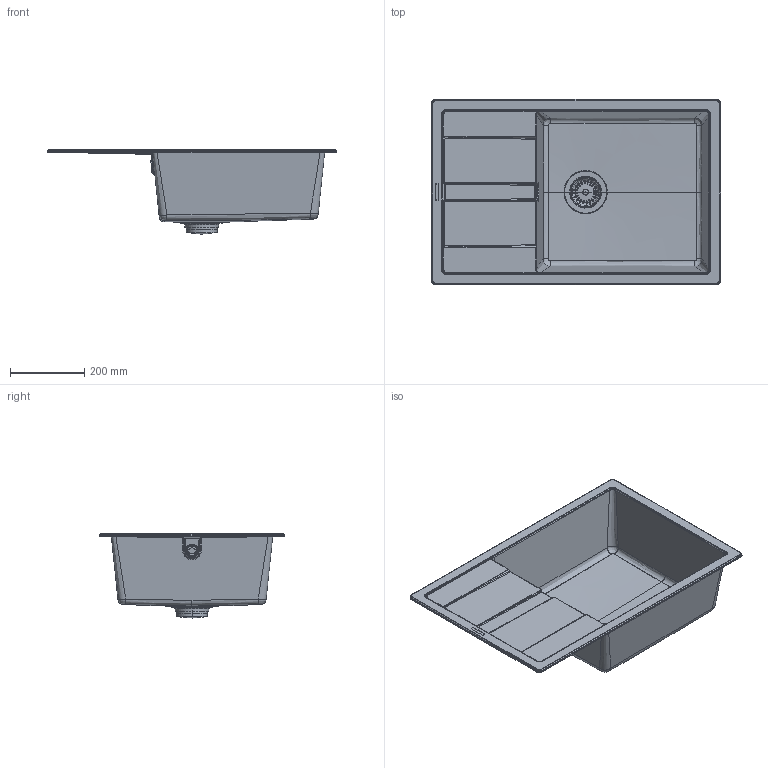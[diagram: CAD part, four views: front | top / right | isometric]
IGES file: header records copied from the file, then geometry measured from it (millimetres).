
Global section: file name: /Users/office3/Desktop/SPU; preprocessor: Trout Lake IGES 012 Dec  4 2019; date: 210310.093734; units: millimetre
Bounding box: 780 x 500 x 227.02 mm (x, y, z)
Surface area: 724106.8 mm2 (no closed solid volume)
Topology: 0 solids, 0 shells, 418 faces, 40651 edges, 40639 vertices
Faces by surface type: bspline 383, plane 35
